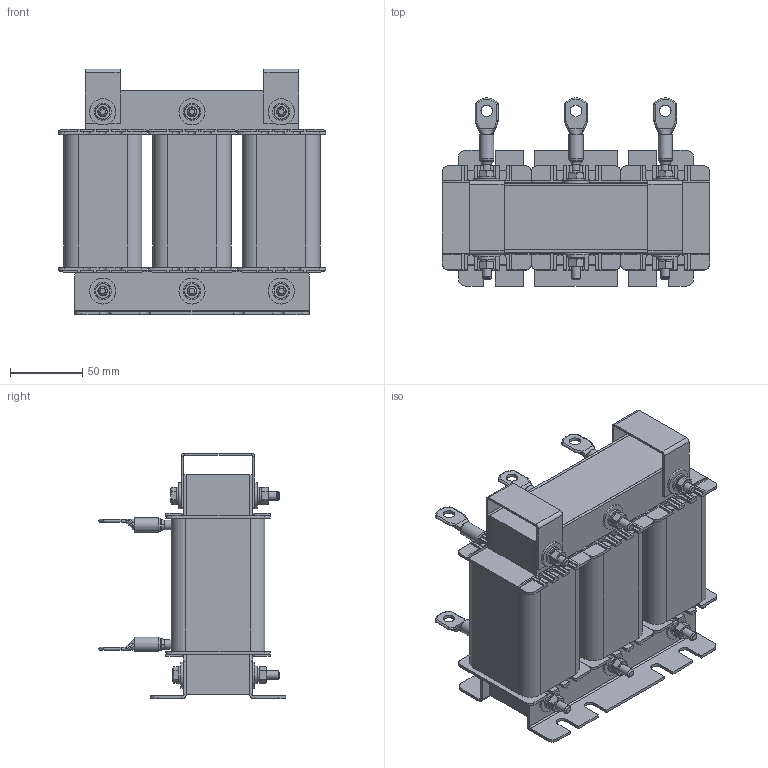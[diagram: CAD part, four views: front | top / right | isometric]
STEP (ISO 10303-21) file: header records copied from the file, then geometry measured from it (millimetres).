
FILE_DESCRIPTION(('STEP AP203'), '1');
FILE_NAME('填蝾痦 漯铖皴朦 _ IMF-22_45-4', '', ('UNSPECIFIED'), ('UNSPECIFIED'), 'C3D Converter', 'C3D Toolkit', '');
FILE_SCHEMA(('CONFIG_CONTROL_DESIGN'));
Length unit declared in the file: millimetre
Products named in the file (18): IMF-22_45-4; DIN 125 (A); ГОСТ 15591-70; DIN 127 (A); DIN 934
Assembly tree (69 placements, depth 3):
  IMF-22_45-4
    IMF-22_45-4
    IMF-22_45-4  x2
    IMF-22_45-4  x6
    IMF-22_45-4  x3
    IMF-22_45-4  x2
    (unnamed)  x12
      (unnamed)
    DIN 125 (A)  x12
      (unnamed)
    ГОСТ 15591-70  x6
      (unnamed)
    DIN 127 (A)  x6
      (unnamed)
    DIN 934  x6
      (unnamed)
    IMF-22_45-4  x2
    (unnamed)  x6
Bounding box: 185 x 129.97 x 170 mm (x, y, z)
Volume: 1445383.8 mm3; surface area: 363447.4 mm2
Topology: 71 solids, 71 shells, 1360 faces, 3342 edges, 2100 vertices
Faces by surface type: plane 884, cylinder 260, cone 102, bspline 84, torus 30
Full cylindrical faces by diameter (mm): 4.917 x6, 6 x37, 6.4 x24, 6.6 x9, 8 x12, 8.8 x6, 9.8 x6, 12 x12, 18 x12
Entity records: 14034 total; most frequent: CARTESIAN_POINT 4207, DIRECTION 1497, ORIENTED_EDGE 1398, EDGE_CURVE 699, AXIS2_PLACEMENT_3D 521, VERTEX_POINT 470, LINE 455, VECTOR 455
